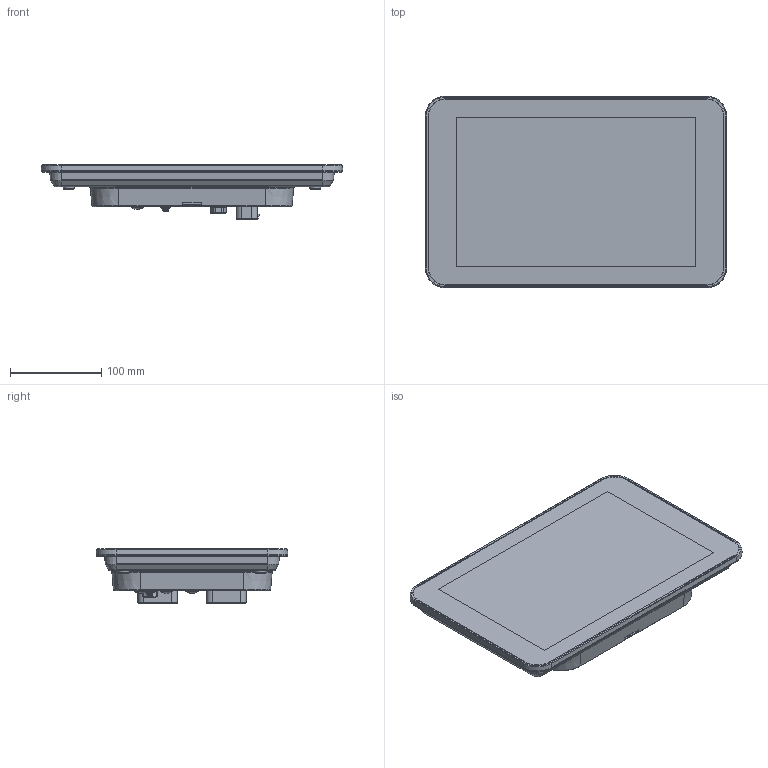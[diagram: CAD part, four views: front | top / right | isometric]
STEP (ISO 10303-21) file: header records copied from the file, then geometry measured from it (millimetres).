
FILE_DESCRIPTION (( 'STEP AP214' ), '1' );
FILE_NAME ('M812-02 (Touch).STEP', '2020-08-21T09:11:00', ( '' ), ( '' ), 'SwSTEP 2.0', 'SolidWorks 2019', '' );
FILE_SCHEMA (( 'AUTOMOTIVE_DESIGN' ));
Length unit declared in the file: millimetre
Products named in the file (1): M812-02 (Touch)
Bounding box: 330.05 x 210.05 x 59.65 mm (x, y, z)
Volume: 2162103.8 mm3; surface area: 202577.8 mm2
Topology: 1 solids, 9 shells, 3556 faces, 8558 edges, 5013 vertices
Faces by surface type: plane 1141, cylinder 1118, bspline 656, cone 244, sphere 233, torus 164
Full cylindrical faces by diameter (mm): 1 x1, 2 x1, 4.2 x9, 5.6 x8, 6.57 x4, 7 x2, 9 x2, 12 x3, 13 x1, 13.5 x3
Entity records: 124146 total; most frequent: CARTESIAN_POINT 50830, ORIENTED_EDGE 16476, DIRECTION 13476, EDGE_CURVE 8238, AXIS2_PLACEMENT_3D 5272, VERTEX_POINT 4957, EDGE_LOOP 3813, FACE_OUTER_BOUND 3611
